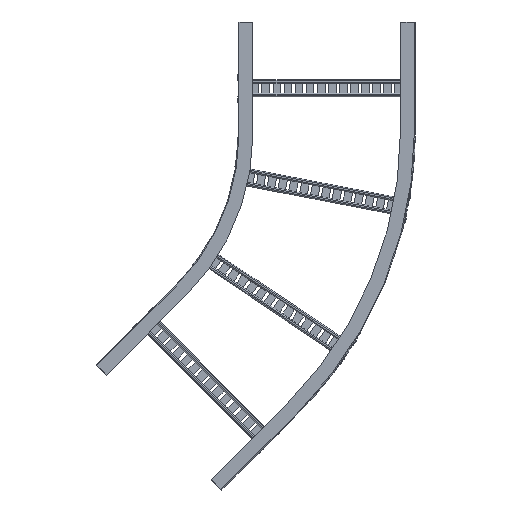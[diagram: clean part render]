
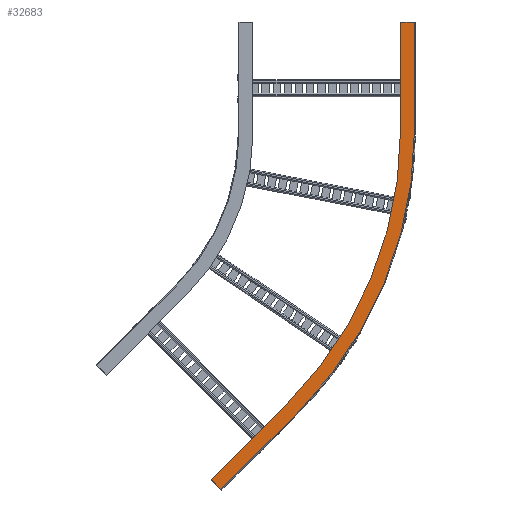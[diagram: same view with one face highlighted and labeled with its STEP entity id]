
A CAD part, front view. The second image highlights one B-rep face of the part: STEP entity #32683.
In plain terms, the highlighted planar face has unit normal (0, -1, 0).
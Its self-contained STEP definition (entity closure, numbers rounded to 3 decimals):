
#779 = ORIENTED_EDGE ( 'NONE', *, *, #74465, .F. ) ;
#2218 = DIRECTION ( 'NONE',  ( 0., 0., 1. ) ) ;
#3246 = ORIENTED_EDGE ( 'NONE', *, *, #7421, .F. ) ;
#3875 = EDGE_CURVE ( 'NONE', #5563, #81890, #52168, .T. ) ;
#5103 = DIRECTION ( 'NONE',  ( 0., 0., 1. ) ) ;
#5199 = DIRECTION ( 'NONE',  ( 0., 1., 0. ) ) ;
#5563 = VERTEX_POINT ( 'NONE', #54148 ) ;
#7421 = EDGE_CURVE ( 'NONE', #73948, #34268, #19833, .T. ) ;
#7580 = VECTOR ( 'NONE', #53748, 1000. ) ;
#8930 = CARTESIAN_POINT ( 'NONE',  ( 6., -1.5, -243.5 ) ) ;
#9255 = ORIENTED_EDGE ( 'NONE', *, *, #42626, .T. ) ;
#9643 = LINE ( 'NONE', #79929, #7580 ) ;
#10802 = VECTOR ( 'NONE', #59043, 1000. ) ;
#11871 = CARTESIAN_POINT ( 'NONE',  ( -259.654, -1.5, -884.846 ) ) ;
#12881 = LINE ( 'NONE', #32501, #10802 ) ;
#14907 = EDGE_CURVE ( 'NONE', #77667, #77334, #52156, .T. ) ;
#15559 = DIRECTION ( 'NONE',  ( 0., 0., -1. ) ) ;
#17842 = VERTEX_POINT ( 'NONE', #72413 ) ;
#19833 = LINE ( 'NONE', #49558, #52868 ) ;
#21041 = PLANE ( 'NONE',  #40429 ) ;
#21589 = CARTESIAN_POINT ( 'NONE',  ( 6., -1.5, -243.5 ) ) ;
#24522 = VECTOR ( 'NONE', #65096, 1000. ) ;
#24537 = EDGE_CURVE ( 'NONE', #5563, #79137, #26102, .T. ) ;
#24742 = CIRCLE ( 'NONE', #58492, 907. ) ;
#26102 = CIRCLE ( 'NONE', #41729, 875.5 ) ;
#30121 = ORIENTED_EDGE ( 'NONE', *, *, #45615, .F. ) ;
#32501 = CARTESIAN_POINT ( 'NONE',  ( -281.928, -1.5, -862.572 ) ) ;
#32683 = ADVANCED_FACE ( 'NONE', ( #41387 ), #21041, .T. ) ;
#33361 = CARTESIAN_POINT ( 'NONE',  ( -431.835, -1.5, -1057.026 ) ) ;
#34268 = VERTEX_POINT ( 'NONE', #38258 ) ;
#34613 = VECTOR ( 'NONE', #2218, 1000. ) ;
#34620 = VECTOR ( 'NONE', #65281, 1000. ) ;
#35477 = ORIENTED_EDGE ( 'NONE', *, *, #24537, .T. ) ;
#35567 = ORIENTED_EDGE ( 'NONE', *, *, #65035, .T. ) ;
#38258 = CARTESIAN_POINT ( 'NONE',  ( -431.835, -1.5, -1057.026 ) ) ;
#40429 = AXIS2_PLACEMENT_3D ( 'NONE', #8930, #55073, #15559 ) ;
#41387 = FACE_OUTER_BOUND ( 'NONE', #65304, .T. ) ;
#41729 = AXIS2_PLACEMENT_3D ( 'NONE', #44765, #5199, #51394 ) ;
#42626 = EDGE_CURVE ( 'NONE', #79137, #17842, #12881, .T. ) ;
#44063 = CARTESIAN_POINT ( 'NONE',  ( -25.5, -1.5, 0. ) ) ;
#44662 = DIRECTION ( 'NONE',  ( 0., 1., 0. ) ) ;
#44765 = CARTESIAN_POINT ( 'NONE',  ( -901., -1.5, -243.5 ) ) ;
#45376 = CARTESIAN_POINT ( 'NONE',  ( -25.5, -1.5, -243.5 ) ) ;
#45615 = EDGE_CURVE ( 'NONE', #81890, #77334, #9643, .T. ) ;
#46544 = CARTESIAN_POINT ( 'NONE',  ( -281.928, -1.5, -862.572 ) ) ;
#49558 = CARTESIAN_POINT ( 'NONE',  ( -259.654, -1.5, -884.846 ) ) ;
#51153 = ORIENTED_EDGE ( 'NONE', *, *, #3875, .F. ) ;
#51394 = DIRECTION ( 'NONE',  ( 0., 0., 1. ) ) ;
#51818 = CARTESIAN_POINT ( 'NONE',  ( 6., -1.5, -243.5 ) ) ;
#52156 = LINE ( 'NONE', #21589, #34613 ) ;
#52168 = LINE ( 'NONE', #45376, #34620 ) ;
#52868 = VECTOR ( 'NONE', #76021, 1000. ) ;
#53748 = DIRECTION ( 'NONE',  ( 1., 0., 0. ) ) ;
#54148 = CARTESIAN_POINT ( 'NONE',  ( -25.5, -1.5, -243.5 ) ) ;
#55073 = DIRECTION ( 'NONE',  ( 0., -1., 0. ) ) ;
#58492 = AXIS2_PLACEMENT_3D ( 'NONE', #84062, #44662, #5103 ) ;
#59043 = DIRECTION ( 'NONE',  ( -0.707, 0., -0.707 ) ) ;
#59650 = LINE ( 'NONE', #33361, #24522 ) ;
#64571 = ORIENTED_EDGE ( 'NONE', *, *, #14907, .T. ) ;
#65035 = EDGE_CURVE ( 'NONE', #17842, #34268, #59650, .T. ) ;
#65096 = DIRECTION ( 'NONE',  ( 0.707, 0., -0.707 ) ) ;
#65281 = DIRECTION ( 'NONE',  ( 0., 0., 1. ) ) ;
#65304 = EDGE_LOOP ( 'NONE', ( #30121, #51153, #35477, #9255, #35567, #3246, #779, #64571 ) ) ;
#72413 = CARTESIAN_POINT ( 'NONE',  ( -454.109, -1.5, -1034.752 ) ) ;
#72924 = CARTESIAN_POINT ( 'NONE',  ( 6., -1.5, 0. ) ) ;
#73948 = VERTEX_POINT ( 'NONE', #11871 ) ;
#74465 = EDGE_CURVE ( 'NONE', #77667, #73948, #24742, .T. ) ;
#76021 = DIRECTION ( 'NONE',  ( -0.707, 0., -0.707 ) ) ;
#77334 = VERTEX_POINT ( 'NONE', #72924 ) ;
#77667 = VERTEX_POINT ( 'NONE', #51818 ) ;
#79137 = VERTEX_POINT ( 'NONE', #46544 ) ;
#79929 = CARTESIAN_POINT ( 'NONE',  ( 6., -1.5, 0. ) ) ;
#81890 = VERTEX_POINT ( 'NONE', #44063 ) ;
#84062 = CARTESIAN_POINT ( 'NONE',  ( -901., -1.5, -243.5 ) ) ;
